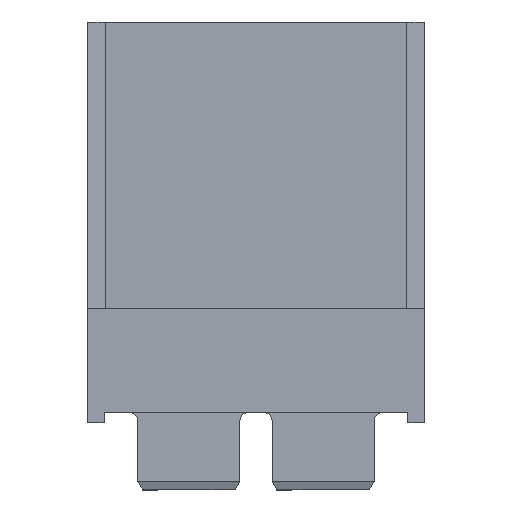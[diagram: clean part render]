
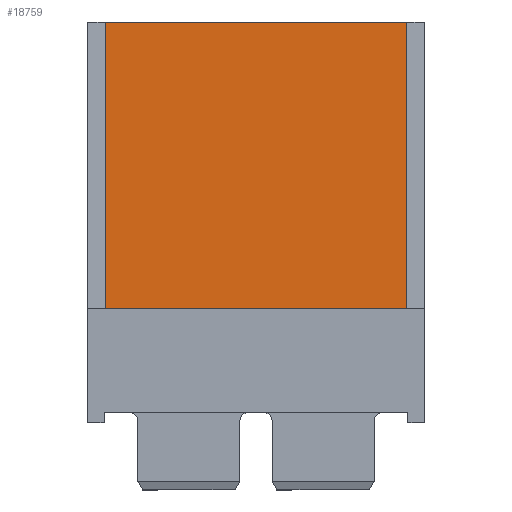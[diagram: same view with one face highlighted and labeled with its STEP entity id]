
A CAD part, top view. The second image highlights one B-rep face of the part: STEP entity #18759.
In plain terms, the highlighted planar face has unit normal (0, 0, 1).
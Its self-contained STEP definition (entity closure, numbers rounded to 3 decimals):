
#2384 = EDGE_CURVE ( 'NONE', #16885, #17396, #22878, .T. ) ;
#2685 = EDGE_CURVE ( 'NONE', #17557, #17255, #17671, .T. ) ;
#2743 = EDGE_CURVE ( 'NONE', #16885, #17255, #15912, .T. ) ;
#2745 = EDGE_CURVE ( 'NONE', #17557, #17396, #15882, .T. ) ;
#8070 = AXIS2_PLACEMENT_3D ( 'NONE', #8856, #8857, #8858 ) ;
#8560 = CARTESIAN_POINT ( 'NONE',  ( 1.1, -17.8, 12.5 ) ) ;
#8832 = PLANE ( 'NONE',  #8070 ) ;
#8846 = FACE_OUTER_BOUND ( 'NONE', #30294, .T. ) ;
#8856 = CARTESIAN_POINT ( 'NONE',  ( 19.85, -31.5, 12.5 ) ) ;
#8857 = DIRECTION ( 'NONE',  ( 0., 0., -1. ) ) ;
#8858 = DIRECTION ( 'NONE',  ( 0., -1., 0. ) ) ;
#9723 = CARTESIAN_POINT ( 'NONE',  ( 19.85, -17.8, 12.5 ) ) ;
#13794 = CARTESIAN_POINT ( 'NONE',  ( 1.1, 0., 12.5 ) ) ;
#15431 = VECTOR ( 'NONE', #22872, 1000. ) ;
#15804 = CARTESIAN_POINT ( 'NONE',  ( 19.85, 0., 12.5 ) ) ;
#15880 = DIRECTION ( 'NONE',  ( 1., 0., 0. ) ) ;
#15881 = CARTESIAN_POINT ( 'NONE',  ( -1.5, -17.8, 12.5 ) ) ;
#15882 = LINE ( 'NONE', #15881, #23437 ) ;
#15885 = DIRECTION ( 'NONE',  ( -1., 0., 0. ) ) ;
#15887 = CARTESIAN_POINT ( 'NONE',  ( 1.1, 0., 12.5 ) ) ;
#15912 = LINE ( 'NONE', #15887, #23431 ) ;
#16885 = VERTEX_POINT ( 'NONE', #15804 ) ;
#17255 = VERTEX_POINT ( 'NONE', #13794 ) ;
#17396 = VERTEX_POINT ( 'NONE', #9723 ) ;
#17557 = VERTEX_POINT ( 'NONE', #8560 ) ;
#17669 = DIRECTION ( 'NONE',  ( 0., 1., 0. ) ) ;
#17670 = CARTESIAN_POINT ( 'NONE',  ( 1.1, -31.5, 12.5 ) ) ;
#17671 = LINE ( 'NONE', #17670, #23367 ) ;
#18759 = ADVANCED_FACE ( 'NONE', ( #8846 ), #8832, .F. ) ;
#22872 = DIRECTION ( 'NONE',  ( 0., -1., 0. ) ) ;
#22874 = CARTESIAN_POINT ( 'NONE',  ( 19.85, -31.5, 12.5 ) ) ;
#22878 = LINE ( 'NONE', #22874, #15431 ) ;
#23367 = VECTOR ( 'NONE', #17669, 1000. ) ;
#23431 = VECTOR ( 'NONE', #15885, 1000. ) ;
#23437 = VECTOR ( 'NONE', #15880, 1000. ) ;
#26877 = ORIENTED_EDGE ( 'NONE', *, *, #2743, .T. ) ;
#27096 = ORIENTED_EDGE ( 'NONE', *, *, #2685, .F. ) ;
#27106 = ORIENTED_EDGE ( 'NONE', *, *, #2745, .T. ) ;
#27123 = ORIENTED_EDGE ( 'NONE', *, *, #2384, .F. ) ;
#30294 = EDGE_LOOP ( 'NONE', ( #27123, #26877, #27096, #27106 ) ) ;
